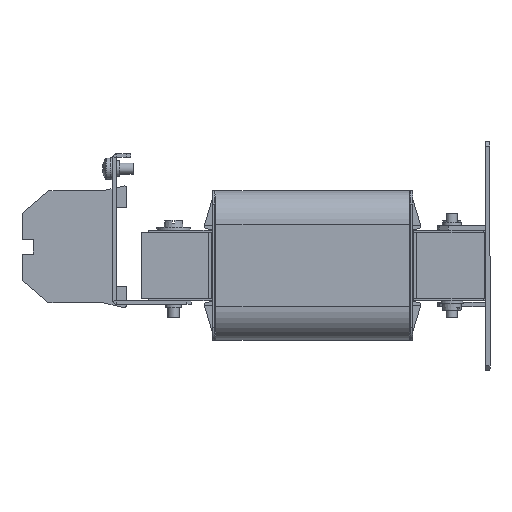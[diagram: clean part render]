
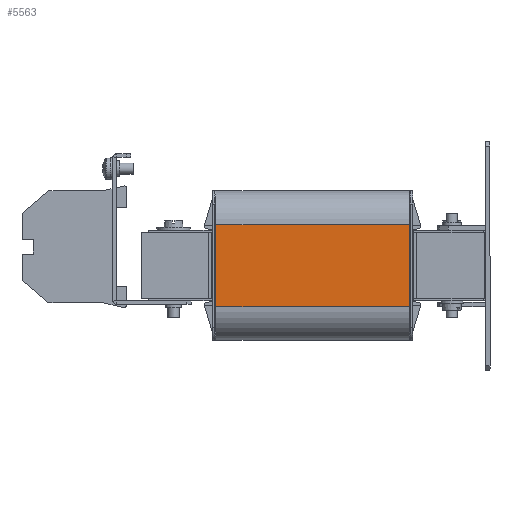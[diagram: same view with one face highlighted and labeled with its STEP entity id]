
A CAD part, left-side view. The second image highlights one B-rep face of the part: STEP entity #5563.
In plain terms, the highlighted planar face has unit normal (-1, 0, 0).
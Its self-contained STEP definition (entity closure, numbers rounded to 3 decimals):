
#2541 = VERTEX_POINT ( 'NONE', #42138 ) ;
#5310 = ORIENTED_EDGE ( 'NONE', *, *, #41168, .T. ) ;
#5563 = ADVANCED_FACE ( 'NONE', ( #27815 ), #38055, .F. ) ;
#6588 = ORIENTED_EDGE ( 'NONE', *, *, #22264, .F. ) ;
#6790 = ORIENTED_EDGE ( 'NONE', *, *, #11577, .T. ) ;
#9079 = CARTESIAN_POINT ( 'NONE',  ( -29.3, 86.2, -18.25 ) ) ;
#9840 = CARTESIAN_POINT ( 'NONE',  ( -29.3, 0., 18.25 ) ) ;
#11577 = EDGE_CURVE ( 'NONE', #18835, #2541, #39240, .T. ) ;
#14130 = DIRECTION ( 'NONE',  ( 1., 0., 0. ) ) ;
#15463 = VECTOR ( 'NONE', #23504, 1000. ) ;
#16840 = CARTESIAN_POINT ( 'NONE',  ( -29.3, 86.2, -18.25 ) ) ;
#17081 = VECTOR ( 'NONE', #41581, 1000. ) ;
#17367 = DIRECTION ( 'NONE',  ( 0., 0., 1. ) ) ;
#17609 = CARTESIAN_POINT ( 'NONE',  ( -29.3, 86.2, 33.25 ) ) ;
#18835 = VERTEX_POINT ( 'NONE', #9840 ) ;
#19466 = ORIENTED_EDGE ( 'NONE', *, *, #39305, .T. ) ;
#19996 = LINE ( 'NONE', #16840, #40013 ) ;
#20856 = DIRECTION ( 'NONE',  ( 0., -1., 0. ) ) ;
#21074 = VECTOR ( 'NONE', #17367, 1000. ) ;
#22264 = EDGE_CURVE ( 'NONE', #27221, #2541, #39595, .T. ) ;
#22539 = AXIS2_PLACEMENT_3D ( 'NONE', #49959, #14130, #42071 ) ;
#23504 = DIRECTION ( 'NONE',  ( 0., 1., 0. ) ) ;
#25962 = CARTESIAN_POINT ( 'NONE',  ( -29.3, 0., -18.25 ) ) ;
#27221 = VERTEX_POINT ( 'NONE', #9079 ) ;
#27815 = FACE_OUTER_BOUND ( 'NONE', #51739, .T. ) ;
#38055 = PLANE ( 'NONE',  #22539 ) ;
#39240 = LINE ( 'NONE', #43454, #15463 ) ;
#39305 = EDGE_CURVE ( 'NONE', #45405, #18835, #41096, .T. ) ;
#39595 = LINE ( 'NONE', #17609, #17081 ) ;
#40013 = VECTOR ( 'NONE', #20856, 1000. ) ;
#41096 = LINE ( 'NONE', #41313, #21074 ) ;
#41168 = EDGE_CURVE ( 'NONE', #27221, #45405, #19996, .T. ) ;
#41313 = CARTESIAN_POINT ( 'NONE',  ( -29.3, 0., 33.25 ) ) ;
#41581 = DIRECTION ( 'NONE',  ( 0., 0., 1. ) ) ;
#42071 = DIRECTION ( 'NONE',  ( 0., 0., -1. ) ) ;
#42138 = CARTESIAN_POINT ( 'NONE',  ( -29.3, 86.2, 18.25 ) ) ;
#43454 = CARTESIAN_POINT ( 'NONE',  ( -29.3, 86.2, 18.25 ) ) ;
#45405 = VERTEX_POINT ( 'NONE', #25962 ) ;
#49959 = CARTESIAN_POINT ( 'NONE',  ( -29.3, 86.2, 33.25 ) ) ;
#51739 = EDGE_LOOP ( 'NONE', ( #6588, #5310, #19466, #6790 ) ) ;
